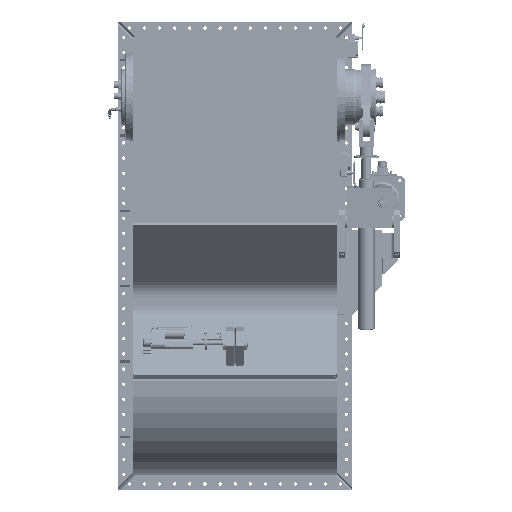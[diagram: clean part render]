
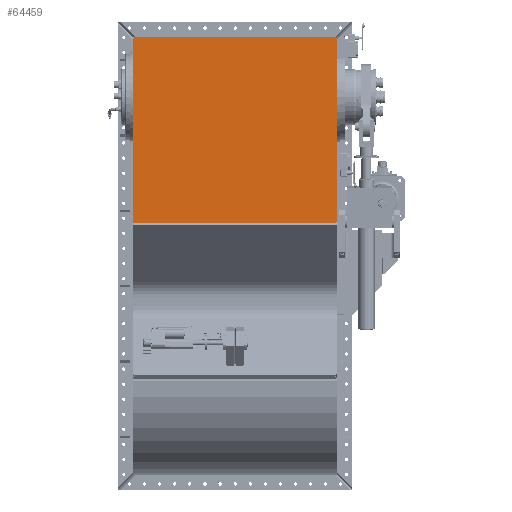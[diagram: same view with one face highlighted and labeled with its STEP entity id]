
A CAD part, top view. The second image highlights one B-rep face of the part: STEP entity #64459.
In plain terms, the highlighted planar face has unit normal (0, 0, 1).
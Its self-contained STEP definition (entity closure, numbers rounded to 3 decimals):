
#2273=PLANE('',#69177);
#5058=FACE_OUTER_BOUND('',#8774,.T.);
#8774=EDGE_LOOP('',(#46657,#46658,#46659,#46660,#46661,#46662,#46663,#46664));
#12817=CIRCLE('',#69167,10.);
#12818=CIRCLE('',#69170,10.);
#12819=CIRCLE('',#69173,10.);
#12820=CIRCLE('',#69176,10.);
#17116=LINE('',#99657,#22209);
#17120=LINE('',#99666,#22213);
#17123=LINE('',#99674,#22216);
#17126=LINE('',#99682,#22219);
#22209=VECTOR('',#80552,10.);
#22213=VECTOR('',#80562,10.);
#22216=VECTOR('',#80571,10.);
#22219=VECTOR('',#80580,10.);
#27457=VERTEX_POINT('',#99654);
#27458=VERTEX_POINT('',#99656);
#27459=VERTEX_POINT('',#99660);
#27460=VERTEX_POINT('',#99664);
#27461=VERTEX_POINT('',#99668);
#27462=VERTEX_POINT('',#99672);
#27463=VERTEX_POINT('',#99676);
#27464=VERTEX_POINT('',#99680);
#34660=EDGE_CURVE('',#27457,#27458,#17116,.T.);
#34662=EDGE_CURVE('',#27458,#27459,#12817,.T.);
#34665=EDGE_CURVE('',#27459,#27460,#17120,.T.);
#34666=EDGE_CURVE('',#27460,#27461,#12818,.T.);
#34669=EDGE_CURVE('',#27461,#27462,#17123,.T.);
#34670=EDGE_CURVE('',#27462,#27463,#12819,.T.);
#34673=EDGE_CURVE('',#27463,#27464,#17126,.T.);
#34674=EDGE_CURVE('',#27464,#27457,#12820,.T.);
#46657=ORIENTED_EDGE('',*,*,#34674,.F.);
#46658=ORIENTED_EDGE('',*,*,#34673,.F.);
#46659=ORIENTED_EDGE('',*,*,#34670,.F.);
#46660=ORIENTED_EDGE('',*,*,#34669,.F.);
#46661=ORIENTED_EDGE('',*,*,#34666,.F.);
#46662=ORIENTED_EDGE('',*,*,#34665,.F.);
#46663=ORIENTED_EDGE('',*,*,#34662,.F.);
#46664=ORIENTED_EDGE('',*,*,#34660,.F.);
#64459=ADVANCED_FACE('',(#5058),#2273,.T.);
#69167=AXIS2_PLACEMENT_3D('',#99661,#80556,#80557);
#69170=AXIS2_PLACEMENT_3D('',#99669,#80565,#80566);
#69173=AXIS2_PLACEMENT_3D('',#99677,#80574,#80575);
#69176=AXIS2_PLACEMENT_3D('',#99684,#80583,#80584);
#69177=AXIS2_PLACEMENT_3D('',#99685,#80585,#80586);
#80552=DIRECTION('',(0.,1.,0.));
#80556=DIRECTION('center_axis',(0.,0.,
-1.));
#80557=DIRECTION('ref_axis',(-0.707,0.707,0.));
#80562=DIRECTION('',(1.,0.,0.));
#80565=DIRECTION('center_axis',(0.,0.,
-1.));
#80566=DIRECTION('ref_axis',(0.707,0.707,0.));
#80571=DIRECTION('',(0.,-1.,0.));
#80574=DIRECTION('center_axis',(0.,0.,
-1.));
#80575=DIRECTION('ref_axis',(0.707,-0.707,0.));
#80580=DIRECTION('',(-1.,0.,0.));
#80583=DIRECTION('center_axis',(0.,0.,
-1.));
#80584=DIRECTION('ref_axis',(-0.707,-0.707,0.));
#80585=DIRECTION('center_axis',(0.,0.,
1.));
#80586=DIRECTION('ref_axis',(0.,-1.,0.));
#99654=CARTESIAN_POINT('',(-169.919,229.63,778.175));
#99656=CARTESIAN_POINT('',(-169.919,951.63,778.175));
#99657=CARTESIAN_POINT('',(-169.919,219.63,778.175));
#99660=CARTESIAN_POINT('',(-159.919,961.63,778.175));
#99661=CARTESIAN_POINT('Origin',(-159.919,951.63,778.175));
#99664=CARTESIAN_POINT('',(634.081,961.63,778.175));
#99666=CARTESIAN_POINT('',(-169.919,961.63,778.175));
#99668=CARTESIAN_POINT('',(644.081,951.63,778.175));
#99669=CARTESIAN_POINT('Origin',(634.081,951.63,778.175));
#99672=CARTESIAN_POINT('',(644.081,229.63,778.175));
#99674=CARTESIAN_POINT('',(644.081,961.63,778.175));
#99676=CARTESIAN_POINT('',(634.081,219.63,778.175));
#99677=CARTESIAN_POINT('Origin',(634.081,229.63,778.175));
#99680=CARTESIAN_POINT('',(-159.919,219.63,778.175));
#99682=CARTESIAN_POINT('',(644.081,219.63,778.175));
#99684=CARTESIAN_POINT('Origin',(-159.919,229.63,778.175));
#99685=CARTESIAN_POINT('Origin',(237.081,590.63,778.175));
